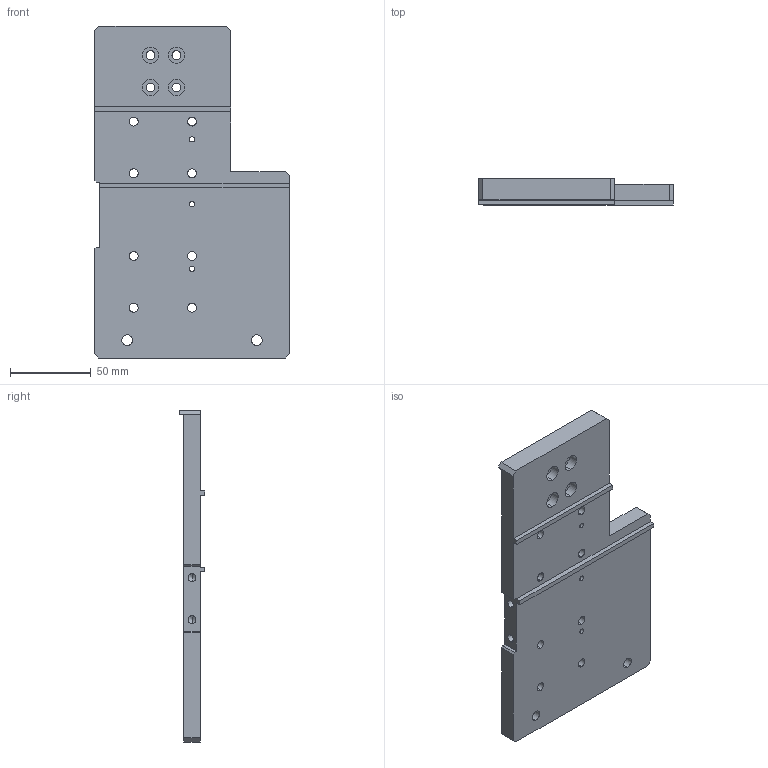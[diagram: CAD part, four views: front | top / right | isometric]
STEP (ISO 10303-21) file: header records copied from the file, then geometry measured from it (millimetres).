
FILE_DESCRIPTION (( 'STEP AP214' ), '1' );
FILE_NAME ('GZ29.05_V1压装滑移板.STEP', '2021-05-07T03:30:36', ( '微软中国' ), ( 'Microsoft' ), 'SwSTEP 2.0', 'SolidWorks 2017', '' );
FILE_SCHEMA (( 'AUTOMOTIVE_DESIGN' ));
Length unit declared in the file: millimetre
Products named in the file (1): GZ29.05_V1揤蚾賑痄啣
Bounding box: 120 x 16 x 205 mm (x, y, z)
Volume: 206576 mm3; surface area: 54213.7 mm2
Topology: 1 solids, 1 shells, 107 faces, 275 edges, 180 vertices
Faces by surface type: cylinder 62, plane 41, cone 4
Entity records: 3529 total; most frequent: DIRECTION 611, CARTESIAN_POINT 559, ORIENTED_EDGE 542, EDGE_CURVE 271, AXIS2_PLACEMENT_3D 232, VERTEX_POINT 180, EDGE_LOOP 155, LINE 147
